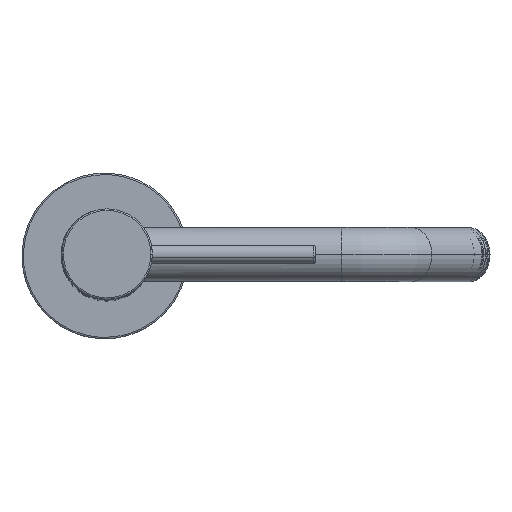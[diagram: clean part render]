
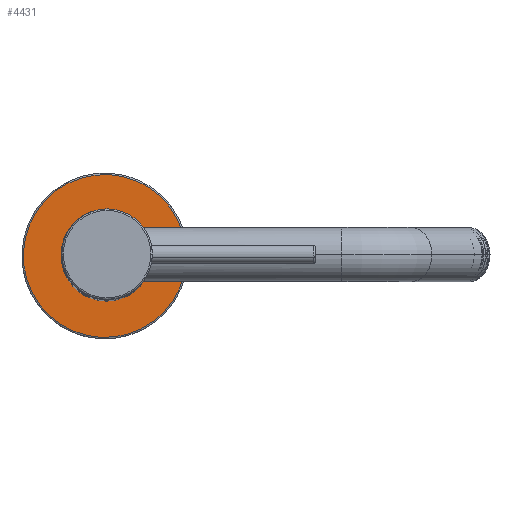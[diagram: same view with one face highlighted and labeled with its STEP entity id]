
A CAD part, top view. The second image highlights one B-rep face of the part: STEP entity #4431.
In plain terms, the highlighted planar face has unit normal (0, 0, 1).
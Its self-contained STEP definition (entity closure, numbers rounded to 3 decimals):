
#1373 = CARTESIAN_POINT ( 'NONE',  ( 13.25, 0., 5. ) ) ;
#1440 = EDGE_CURVE ( 'NONE', #22358, #35316, #14189, .T. ) ;
#2102 = CIRCLE ( 'NONE', #22277, 13.25 ) ;
#3059 = CARTESIAN_POINT ( 'NONE',  ( 0., 0., 5. ) ) ;
#4238 = EDGE_CURVE ( 'NONE', #35316, #22358, #2102, .T. ) ;
#4431 = ADVANCED_FACE ( 'NONE', ( #16431, #33050 ), #8303, .T. ) ;
#4507 = EDGE_LOOP ( 'NONE', ( #22810, #32498 ) ) ;
#4947 = VERTEX_POINT ( 'NONE', #4968 ) ;
#4968 = CARTESIAN_POINT ( 'NONE',  ( 27., 0., 5. ) ) ;
#5501 = AXIS2_PLACEMENT_3D ( 'NONE', #16448, #35046, #24212 ) ;
#6171 = ORIENTED_EDGE ( 'NONE', *, *, #23309, .T. ) ;
#8303 = PLANE ( 'NONE',  #29799 ) ;
#8315 = DIRECTION ( 'NONE',  ( 1., 0., 0. ) ) ;
#12673 = EDGE_LOOP ( 'NONE', ( #25887, #6171 ) ) ;
#12916 = EDGE_CURVE ( 'NONE', #4947, #20621, #22914, .T. ) ;
#13195 = DIRECTION ( 'NONE',  ( 1., 0., 0. ) ) ;
#13270 = CARTESIAN_POINT ( 'NONE',  ( -13.25, 0., 5. ) ) ;
#13555 = DIRECTION ( 'NONE',  ( 0., 0., 1. ) ) ;
#14189 = CIRCLE ( 'NONE', #5501, 13.25 ) ;
#14260 = AXIS2_PLACEMENT_3D ( 'NONE', #30912, #25490, #20435 ) ;
#15784 = AXIS2_PLACEMENT_3D ( 'NONE', #22024, #13555, #8315 ) ;
#16431 = FACE_OUTER_BOUND ( 'NONE', #12673, .T. ) ;
#16448 = CARTESIAN_POINT ( 'NONE',  ( 0., 0., 5. ) ) ;
#19307 = DIRECTION ( 'NONE',  ( 0., 0., 1. ) ) ;
#20435 = DIRECTION ( 'NONE',  ( 1., 0., 0. ) ) ;
#20621 = VERTEX_POINT ( 'NONE', #34307 ) ;
#21308 = CARTESIAN_POINT ( 'NONE',  ( 0., 0., 5. ) ) ;
#22024 = CARTESIAN_POINT ( 'NONE',  ( 0., 0., 5. ) ) ;
#22277 = AXIS2_PLACEMENT_3D ( 'NONE', #21308, #35207, #13195 ) ;
#22358 = VERTEX_POINT ( 'NONE', #1373 ) ;
#22810 = ORIENTED_EDGE ( 'NONE', *, *, #4238, .F. ) ;
#22914 = CIRCLE ( 'NONE', #14260, 27. ) ;
#23309 = EDGE_CURVE ( 'NONE', #20621, #4947, #33691, .T. ) ;
#24212 = DIRECTION ( 'NONE',  ( 1., 0., 0. ) ) ;
#25490 = DIRECTION ( 'NONE',  ( 0., 0., 1. ) ) ;
#25887 = ORIENTED_EDGE ( 'NONE', *, *, #12916, .T. ) ;
#29799 = AXIS2_PLACEMENT_3D ( 'NONE', #3059, #19307, #33417 ) ;
#30912 = CARTESIAN_POINT ( 'NONE',  ( 0., 0., 5. ) ) ;
#32498 = ORIENTED_EDGE ( 'NONE', *, *, #1440, .F. ) ;
#33050 = FACE_BOUND ( 'NONE', #4507, .T. ) ;
#33417 = DIRECTION ( 'NONE',  ( 1., 0., 0. ) ) ;
#33691 = CIRCLE ( 'NONE', #15784, 27. ) ;
#34307 = CARTESIAN_POINT ( 'NONE',  ( -27., 0., 5. ) ) ;
#35046 = DIRECTION ( 'NONE',  ( 0., 0., 1. ) ) ;
#35207 = DIRECTION ( 'NONE',  ( 0., 0., 1. ) ) ;
#35316 = VERTEX_POINT ( 'NONE', #13270 ) ;
